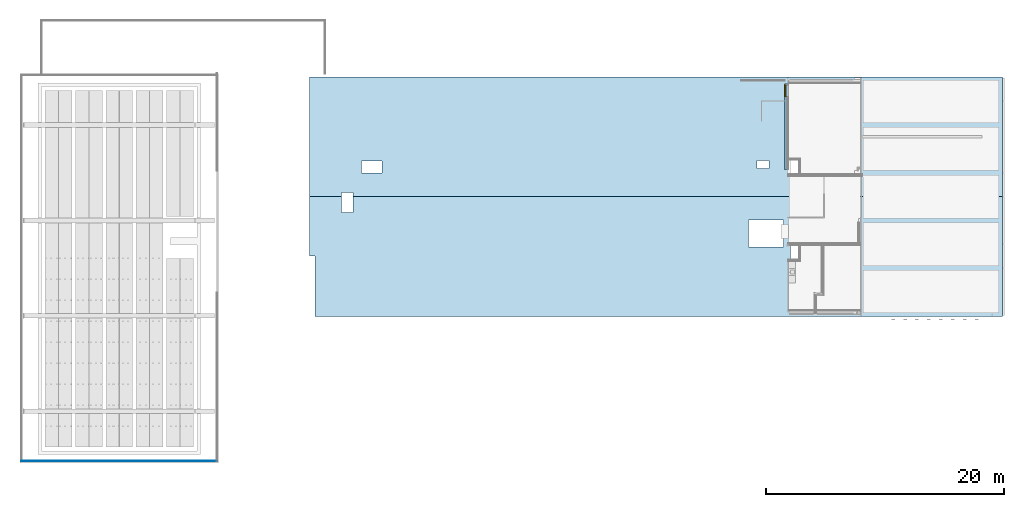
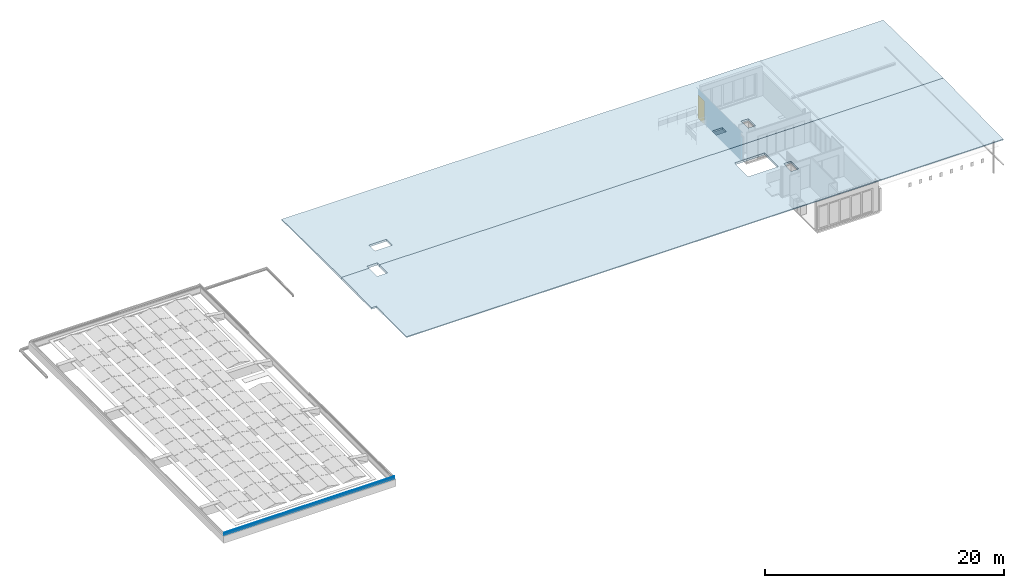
# One storey, part 8 of 25: 3 building element parts, 2 roofs, 1 door, 1 opening, 1 element without a shape of its own, plus 1 element that does not belong to this part.
"""IFC2X3 building model written with IfcOpenShell, lengths in millimetres."""

from ifc_helpers import new_model, entity, si_unit, converted_unit, derived_unit, money_unit, direction, frame, origin_with_axes, place, context, subcontext, project, spatial, faceted_brep, material, type_object, element, fill, aggregate, save


model = new_model("IFC2X3")

# Units and contexts
model_context = context("Model", 3, precision=0.01, world=origin_with_axes(), true_north=direction((0.0, 1.0)))
body_context = subcontext(model_context, "Body", "Model", "MODEL_VIEW")
ifc_project = project(units=[si_unit("LENGTHUNIT", "METRE", prefix="MILLI"), si_unit("AREAUNIT", "SQUARE_METRE"), si_unit("VOLUMEUNIT", "CUBIC_METRE"), converted_unit("PLANEANGLEUNIT", "DEGREE", entity("IfcPlaneAngleMeasure", 0.0174532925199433), si_unit("PLANEANGLEUNIT", "RADIAN"), dimensions=[0, 0, 0, 0, 0, 0, 0]), money_unit("EUR"), converted_unit("TIMEUNIT", "Year", entity("IfcTimeMeasure", 31557600.0), si_unit("TIMEUNIT", "SECOND"), dimensions=[0, 0, 1, 0, 0, 0, 0]), si_unit("MASSUNIT", "GRAM", prefix="KILO"), si_unit("THERMODYNAMICTEMPERATUREUNIT", "DEGREE_CELSIUS"), si_unit("LUMINOUSINTENSITYUNIT", "LUMEN"), si_unit("ENERGYUNIT", "JOULE", prefix="MEGA"), derived_unit("THERMALCONDUCTANCEUNIT", [(si_unit("POWERUNIT", "WATT"), 1), (si_unit("LENGTHUNIT", "METRE"), -1), (si_unit("THERMODYNAMICTEMPERATUREUNIT", "KELVIN"), -1)]), derived_unit("SPECIFICHEATCAPACITYUNIT", [(si_unit("ENERGYUNIT", "JOULE"), 1), (si_unit("MASSUNIT", "GRAM", prefix="KILO"), -1), (si_unit("THERMODYNAMICTEMPERATUREUNIT", "KELVIN"), -1)]), derived_unit("MASSDENSITYUNIT", [(si_unit("MASSUNIT", "GRAM", prefix="KILO"), 1), (si_unit("VOLUMEUNIT", "CUBIC_METRE"), -1)])], contexts=[model_context])

# Site, building, storey
site_placement = place(None, origin_with_axes())
site = spatial("IfcSite", under=ifc_project, at=site_placement, Name="<site naam>", CompositionType="ELEMENT")
building_placement = place(site_placement, origin_with_axes())
building = spatial("IfcBuilding", under=site, at=building_placement, Name="<Naam gebouw>", CompositionType="ELEMENT")
storey_placement = place(building_placement, frame((0.0, 0.0, 9563.0), z_axis=(0.0, 0.0, 1.0), x_axis=(1.0, 0.0, 0.0)))
storey = spatial("IfcBuildingStorey", under=building, at=storey_placement, Name="03 3e tussenverdieping", CompositionType="ELEMENT", Elevation=9563.0)

# Wall, opening, door
ifc_material_1 = material(Name="beton_gewapend C")
wall_type = type_object("IfcWallType", Name="beton 160 160", PredefinedType="NOTDEFINED")
wall_placement = place(storey_placement, frame((51985.00000000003, 19685.91067811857, 0.0), z_axis=(0.0, 0.0, 1.0), x_axis=(0.0, -1.0, 0.0)))
wall = element("IfcWall", 1, at=wall_placement, inside=storey, type_object=wall_type, material=ifc_material_1, Name="22_Binnenwand_beton", context=body_context, shape_type="Brep", body=[
    faceted_brep([(274.9999999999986, 0.0, 2327.0), (274.9999999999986, -129.9999999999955, 2327.0), (7410.910678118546, -129.9999999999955, 2327.0), (7410.910678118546, 0.0, 2327.0), (274.9999999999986, -159.9999999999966, 2927.0), (274.9999999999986, -129.9999999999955, 2927.0), (274.9999999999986, 0.0, 0.0), (274.9999999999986, -159.9999999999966, 0.0), (7685.910678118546, -129.9999999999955, 2987.000014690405), (7685.910678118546, -129.9999999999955, 2927.0), (7410.910678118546, -129.9999999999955, 2927.0), (0.0, -129.9999999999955, 2927.0), (0.0, -129.9999999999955, 2987.000014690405), (7410.910678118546, -159.9999999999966, 2927.0), (7410.910678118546, -159.9999999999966, 0.0), (7410.910678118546, 0.0, 0.0), (0.0, -159.9999999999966, 2927.0), (7685.910678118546, -159.9999999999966, 2927.0), (7685.910678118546, -160.0000000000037, 2987.000014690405), (0.0, -159.9999999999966, 2987.000014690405)], [[[0, 1, 2, 3]], [[4, 5, 1, 0, 6, 7]], [[8, 9, 10, 2, 1, 5, 11, 12]], [[13, 14, 15, 3, 2, 10]], [[6, 0, 3, 15]], [[5, 4, 16, 11]], [[7, 6, 15, 14]], [[7, 14, 13, 17, 18, 19, 16, 4]], [[8, 18, 17, 9]], [[17, 13, 10, 9]], [[19, 12, 11, 16]], [[12, 19, 18, 8]]]),
])
opening_placement = place(wall_placement, frame((817.8526862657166, 0.0, 0.0), z_axis=(0.0, 0.0, 1.0), x_axis=(1.0, 0.0, 0.0)))
opening = element("IfcOpeningElement", 2, at=opening_placement, cuts=wall, Name="22_BI-A-06 sp_305", context=body_context, shape_type="Brep", body=[
    faceted_brep([(516.9999999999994, 0.9999999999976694, 2366.999999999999), (516.9999999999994, 0.9999999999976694, 0.0), (-516.9999999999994, 0.9999999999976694, 0.0), (-516.9999999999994, 0.9999999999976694, 2366.999999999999), (516.9999999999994, -160.9999999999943, 2366.999999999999), (516.9999999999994, -160.9999999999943, 0.0), (-516.9999999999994, -160.9999999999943, 0.0), (-516.9999999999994, -160.9999999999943, 2366.999999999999)], [[[0, 1, 2, 3]], [[4, 5, 1, 0]], [[5, 6, 2, 1]], [[6, 7, 3, 2]], [[7, 4, 0, 3]], [[6, 5, 4, 7]]]),
])
door_style = type_object("IfcDoorStyle", Name="D1 27", ConstructionType="NOTDEFINED", OperationType="SINGLE_SWING_RIGHT", ParameterTakesPrecedence=False, Sizeable=False)
door_placement = place(opening_placement, frame((449.9999999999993, 0.0, 0.0), z_axis=(0.0, 0.0, 1.0), x_axis=(-1.0, 0.0, 0.0)))
door = element("IfcDoor", 3, at=door_placement, inside=storey, type_object=door_style, Name="22_BI-A-06 sp_305", ObjectType="DOOR", OverallHeight=2367.0, OverallWidth=1034.0, context=body_context, shape_type="Brep", body=[
    faceted_brep([(916.9999999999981, 129.9999999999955, 0.0), (916.9999999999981, 129.9999999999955, 12.00000000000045), (899.9999999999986, 129.9999999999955, 12.00000000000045), (899.9999999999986, 129.9999999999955, 0.0), (-16.99999999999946, 129.9999999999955, 0.0), (-16.99999999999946, 129.9999999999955, 12.00000000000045), (0.0, 129.9999999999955, 12.00000000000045), (0.0, 55.99999999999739, 12.00000000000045), (899.9999999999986, 55.99999999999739, 12.00000000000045), (899.9999999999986, 55.99999999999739, 0.0), (0.0, 55.99999999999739, 0.0), (0.0, 129.9999999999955, 0.0)], [[[0, 1, 2, 3]], [[4, 5, 1, 0]], [[1, 5, 6, 7, 8, 2]], [[3, 2, 8, 9]], [[0, 3, 9, 10, 11, 4]], [[11, 6, 5, 4]], [[10, 7, 6, 11]], [[9, 8, 7, 10]]]),
    faceted_brep([(0.0, 129.9999999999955, 0.0), (0.0, 129.9999999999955, 2299.999999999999), (0.0, 55.99999999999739, 2299.999999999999), (0.0, 55.99999999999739, 0.0), (-16.99999999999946, 129.9999999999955, 2299.999999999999), (-16.99999999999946, 129.9999999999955, 0.0), (-16.99999999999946, 169.9999999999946, 2299.999999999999), (-67.00000000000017, 169.9999999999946, 2299.999999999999), (-67.00000000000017, 55.99999999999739, 2299.999999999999), (-67.00000000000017, 55.99999999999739, 0.0), (-67.00000000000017, 169.9999999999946, 0.0), (-16.99999999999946, 169.9999999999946, 0.0)], [[[0, 1, 2, 3]], [[4, 1, 0, 5]], [[4, 6, 7, 8, 2, 1]], [[3, 2, 8, 9]], [[5, 0, 3, 9, 10, 11]], [[6, 4, 5, 11]], [[6, 11, 10, 7]], [[10, 9, 8, 7]]]),
    faceted_brep([(916.9999999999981, 129.9999999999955, 2299.999999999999), (899.9999999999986, 129.9999999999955, 2299.999999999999), (899.9999999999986, 55.99999999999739, 2299.999999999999), (966.9999999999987, 55.99999999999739, 2299.999999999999), (966.9999999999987, 169.9999999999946, 2299.999999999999), (916.9999999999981, 169.9999999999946, 2299.999999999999), (916.9999999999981, 129.9999999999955, 0.0), (899.9999999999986, 129.9999999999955, 0.0), (899.9999999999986, 55.99999999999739, 0.0), (966.9999999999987, 55.99999999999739, 0.0), (966.9999999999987, 169.9999999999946, 0.0), (916.9999999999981, 169.9999999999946, 0.0)], [[[0, 1, 2, 3, 4, 5]], [[1, 0, 6, 7]], [[1, 7, 8, 2]], [[3, 2, 8, 9]], [[4, 3, 9, 10]], [[11, 5, 4, 10]], [[0, 5, 11, 6]], [[6, 11, 10, 9, 8, 7]]]),
    faceted_brep([(-16.99999999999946, 169.9999999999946, 2317.0), (-16.99999999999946, 169.9999999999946, 2299.999999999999), (-67.00000000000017, 169.9999999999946, 2299.999999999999), (-67.00000000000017, 169.9999999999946, 2366.999999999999), (966.9999999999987, 169.9999999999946, 2366.999999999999), (966.9999999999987, 169.9999999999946, 2299.999999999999), (916.9999999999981, 169.9999999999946, 2299.999999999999), (916.9999999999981, 169.9999999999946, 2317.0), (-16.99999999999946, 129.9999999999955, 2317.0), (-16.99999999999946, 129.9999999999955, 2299.999999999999), (0.0, 129.9999999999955, 2299.999999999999), (0.0, 55.99999999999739, 2299.999999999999), (-67.00000000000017, 55.99999999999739, 2299.999999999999), (-67.00000000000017, 55.99999999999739, 2366.999999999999), (966.9999999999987, 55.99999999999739, 2366.999999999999), (966.9999999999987, 55.99999999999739, 2299.999999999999), (916.9999999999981, 129.9999999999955, 2299.999999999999), (899.9999999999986, 55.99999999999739, 2299.999999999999), (899.9999999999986, 129.9999999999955, 2299.999999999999), (916.9999999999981, 129.9999999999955, 2317.0)], [[[0, 1, 2, 3, 4, 5, 6, 7]], [[1, 0, 8, 9]], [[9, 10, 11, 12, 2, 1]], [[2, 12, 13, 3]], [[3, 13, 14, 4]], [[4, 14, 15, 5]], [[16, 6, 5, 15, 17, 18]], [[7, 6, 16, 19]], [[0, 7, 19, 8]], [[16, 18, 10, 9, 8, 19]], [[10, 18, 17, 11]], [[17, 15, 14, 13, 12, 11]]]),
    faceted_brep([(916.9999999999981, 169.9999999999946, 0.0), (916.9999999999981, 129.9999999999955, 0.0), (-16.99999999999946, 129.9999999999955, 0.0), (-16.99999999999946, 169.9999999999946, 0.0), (916.9999999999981, 169.9999999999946, 2317.0), (916.9999999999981, 129.9999999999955, 2317.0), (-16.99999999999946, 129.9999999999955, 2317.0), (-16.99999999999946, 169.9999999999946, 2317.0)], [[[0, 1, 2, 3]], [[4, 5, 1, 0]], [[1, 5, 6, 2]], [[3, 2, 6, 7]], [[0, 3, 7, 4]], [[7, 6, 5, 4]]]),
])
fill(opening, door)

# Roofs
ifc_material_2 = material(Name="ALG - ISOLATIE")
roof_1_placement = place(storey_placement, frame((70009.9999975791, 9996.000511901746, 3136.930201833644), z_axis=(0.0, 0.0, 1.0), x_axis=(-1.0, 0.0, 0.0)))
element("IfcRoof", 4, at=roof_1_placement, inside=storey, material=ifc_material_2, Name="27_Dak_ALG", ShapeType="NOTDEFINED", context=body_context, shape_type="Brep", body=[
    faceted_brep([(21223.99999751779, 1941.000513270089, 0.06981285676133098), (18295.99999724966, 1941.000513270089, 0.06981285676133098), (18295.99999757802, 1941.0005133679, 219.5389247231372), (21223.99999757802, 1941.0005133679, 219.5389247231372), (54384.99999037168, -3.893756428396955e-07, 0.06981285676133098), (-70.00000038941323, -3.893756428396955e-07, 0.06981285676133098), (-70.00000014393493, 10031.00051201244, 0.06981285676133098), (57579.99999522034, 10031.00051201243, 0.06981285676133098), (57579.99999527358, 4991.898205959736, 0.06981285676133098), (58044.99999784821, 4991.898205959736, 0.06981285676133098), (58044.99999797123, -3.893756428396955e-07, 0.06981285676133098), (55384.99999782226, -3.893756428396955e-07, 0.06981285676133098), (55384.99999780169, 1346.276423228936, 0.06981285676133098), (54384.99999035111, 1346.276423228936, 0.06981285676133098), (18295.99999730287, 4205.000513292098, 0.06981285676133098), (21223.99999752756, 4205.000513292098, 0.06981285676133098), (16984.99999176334, 5316.000543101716, 0.06981285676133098), (16984.99999178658, 4061.000512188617, 0.06981285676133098), (17684.99996792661, 4061.000512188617, 0.06981285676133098), (17684.99996795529, 5316.000543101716, 0.06981285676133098), (18295.99999757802, 4205.000513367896, 183.9731706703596), (-70.00000000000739, 10031.00051190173, 92.45104917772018), (-70.00000000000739, 0.0, 250.0305973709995), (54384.99999012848, 0.0, 250.0305973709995), (54384.99999012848, 1346.276423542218, 228.8815972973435), (55384.99999757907, 1346.276423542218, 228.8815972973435), (55384.99999757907, 0.0, 250.0305973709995), (58044.99999757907, 0.0, 250.0305973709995), (58044.99999757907, 4991.898205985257, 171.6115939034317), (57579.99999515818, 4991.898205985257, 171.6115939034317), (57579.99999515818, 10031.00051190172, 92.45104917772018), (17684.99996819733, 4061.000511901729, 186.2353034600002), (16984.99999156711, 4061.000511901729, 186.2353034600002), (16984.99999156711, 5316.000543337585, 166.5201875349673), (17684.99996819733, 5316.000543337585, 166.5201875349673), (21223.99999757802, 4205.000513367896, 183.9731706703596)], [[[0, 1, 2, 3]], [[4, 5, 6, 7, 8, 9, 10, 11, 12, 13], [14, 1, 0, 15], [16, 17, 18, 19]], [[1, 14, 20, 2]], [[21, 22, 23, 24, 25, 26, 27, 28, 29, 30], [31, 32, 33, 34], [2, 20, 35, 3]], [[15, 0, 3, 35]], [[5, 4, 23, 22]], [[6, 5, 22, 21]], [[7, 6, 21, 30]], [[8, 7, 30, 29]], [[9, 8, 29, 28]], [[10, 9, 28, 27]], [[11, 10, 27, 26]], [[12, 11, 26, 25]], [[13, 12, 25, 24]], [[4, 13, 24, 23]], [[14, 15, 35, 20]], [[17, 16, 33, 32]], [[18, 17, 32, 31]], [[19, 18, 31, 34]], [[16, 19, 34, 33]]]),
])
roof_2_placement = place(storey_placement, frame((12035.00000000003, 9996.000511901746, 3136.930201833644), z_axis=(0.0, 0.0, 1.0), x_axis=(1.0, 0.0, 0.0)))
element("IfcRoof", 5, at=roof_2_placement, inside=storey, material=ifc_material_2, Name="27_Dak_ALG", ShapeType="NOTDEFINED", context=body_context, shape_type="Brep", body=[
    faceted_brep([(4289.999999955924, 2979.558344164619, 0.06981285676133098), (5990.000000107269, 2979.558344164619, 0.06981285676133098), (5990.000000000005, 2979.558344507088, 203.2239545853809), (4290.000000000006, 2979.558344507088, 203.2239545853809), (-70.00000014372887, 10038.99948820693, 0.06981285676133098), (58044.99999772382, 10038.99948820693, 0.06981285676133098), (58044.99999797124, -3.893756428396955e-07, 0.06981285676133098), (3589.999999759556, -3.893756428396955e-07, 0.06981285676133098), (3589.999999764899, 353.723576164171, 0.06981285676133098), (2589.999999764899, 353.723576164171, 0.06981285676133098), (2589.999999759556, -3.893756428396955e-07, 0.06981285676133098), (-70.00000038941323, -3.893756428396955e-07, 0.06981285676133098), (40990.00000011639, 1878.999487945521, 0.06981285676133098), (40990.00000010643, 3078.999487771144, 0.06981285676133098), (40289.99999995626, 3078.999487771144, 0.06981285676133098), (40289.99999995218, 1878.999487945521, 0.06981285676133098), (38465.00007888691, 2348.091170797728, 0.06981285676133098), (38465.0000788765, 3048.091171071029, 0.06981285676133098), (37465.0000788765, 3048.091171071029, 0.06981285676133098), (37465.00007888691, 2348.091170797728, 0.06981285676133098), (5990.000000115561, 1979.558344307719, 0.06981285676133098), (4289.999999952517, 1979.558344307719, 0.06981285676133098), (5990.000000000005, 1979.55834450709, 218.9332099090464), (58044.99999757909, 0.0, 250.0305973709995), (58044.99999757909, 10038.99948809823, 92.3253912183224), (-70.00000000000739, 10038.99948809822, 92.3253912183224), (-70.00000000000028, 0.0, 250.0305973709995), (2590.0, 0.0, 250.0305973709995), (2590.0, 353.723576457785, 244.4738633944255), (3590.0, 353.723576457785, 244.4738633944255), (3590.0, 0.0, 250.0305973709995), (4290.000000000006, 1979.55834450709, 218.9332099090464), (37465.00007868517, 2348.091170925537, 213.1438336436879), (37465.00007868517, 3048.09117092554, 202.1473549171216), (38465.00007868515, 3048.09117092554, 202.1473549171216), (38465.00007868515, 2348.091170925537, 213.1438336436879), (40989.99999999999, 3078.999488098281, 201.6618082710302), (40989.99999999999, 1878.999488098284, 220.5129146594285), (40289.99999999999, 1878.999488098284, 220.5129146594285), (40289.99999999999, 3078.999488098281, 201.6618082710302)], [[[0, 1, 2, 3]], [[4, 5, 6, 7, 8, 9, 10, 11], [12, 13, 14, 15], [16, 17, 18, 19], [20, 1, 0, 21]], [[1, 20, 22, 2]], [[23, 24, 25, 26, 27, 28, 29, 30], [2, 22, 31, 3], [32, 33, 34, 35], [36, 37, 38, 39]], [[21, 0, 3, 31]], [[5, 4, 25, 24]], [[6, 5, 24, 23]], [[7, 6, 23, 30]], [[8, 7, 30, 29]], [[9, 8, 29, 28]], [[10, 9, 28, 27]], [[11, 10, 27, 26]], [[4, 11, 26, 25]], [[13, 12, 37, 36]], [[14, 13, 36, 39]], [[15, 14, 39, 38]], [[12, 15, 38, 37]], [[17, 16, 35, 34]], [[18, 17, 34, 33]], [[19, 18, 33, 32]], [[16, 19, 32, 35]], [[20, 21, 31, 22]]]),
])

# Beam, building element parts
beam_type = type_object("IfcBeamType", Name="Aluminium daktrim 45 x 250", PredefinedType="BEAM")
beam_placement = place(storey_placement, frame((-12324.99999757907, -12327.02502410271, -1057.000005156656), z_axis=(0.0, 0.0, 1.0), x_axis=(0.0, -1.0, 0.0)))
beam = element("IfcBeam", 6, at=beam_placement, inside=storey, type_object=beam_type, Name="47_Balk_Aluminium", ObjectType="BEAM")
ifc_material_3 = material(Name="aluminium")
building_element_part_1_placement = place(beam_placement, origin_with_axes())
building_element_part_1 = element("IfcBuildingElementPart", 7, at=building_element_part_1_placement, material=ifc_material_3, Name="aluminium", context=body_context, shape_type="Brep", body=[
    faceted_brep([(-121.4991945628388, 16538.54526887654, 294.0656451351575), (-122.2068758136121, 16537.83758762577, 293.7721760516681), (-122.2068758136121, 122.2068758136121, 293.7721760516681), (-121.4991945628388, 121.4991945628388, 294.0656451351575), (-110.9991946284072, 16549.04526881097, 294.0656451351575), (-110.2920878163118, 16549.75237562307, 293.7727519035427), (-109.9991945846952, 16550.04526885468, 293.0656450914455), (-109.9991945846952, 16550.04526885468, 250.0656451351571), (-110.2920878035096, 16549.75237563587, 249.3585383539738), (-110.9991945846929, 16549.04526885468, 249.0656451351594), (-111.4991731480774, 16548.5452902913, 249.1996073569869), (-117.6977781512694, 16542.34668528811, 252.7781690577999), (-117.9774779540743, 16542.06698548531, 253.1426342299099), (-117.9175736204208, 16542.12688981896, 253.598132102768), (-117.5531500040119, 16542.49131343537, 253.8778860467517), (-117.0976432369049, 16542.94682020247, 253.8180493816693), (-113.8976320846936, 16546.14683135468, 251.9718951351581), (-113.8976320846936, 16546.14683135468, 252.565645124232), (-113.7511854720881, 16546.29327796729, 252.9191985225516), (-113.3976320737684, 16546.64683136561, 253.0656451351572), (-113.1984133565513, 16546.84605008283, 253.0656451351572), (-112.8448599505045, 16547.19960348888, 252.9191985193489), (-112.6984133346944, 16547.34605010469, 252.5656451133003), (-112.6984133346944, 16547.34605010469, 251.278535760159), (-111.9489165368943, 16548.09554690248, 250.8452329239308), (-111.6116899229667, 16548.43277351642, 250.7856033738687), (-111.3150643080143, 16548.72939913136, 250.9567486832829), (-111.1979101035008, 16548.84655333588, 251.278544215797), (-111.1984133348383, 16548.84605010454, 281.0656535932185), (-111.3448629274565, 16548.69960051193, 281.419201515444), (-111.6984133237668, 16548.34605011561, 281.5656451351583), (-112.1984133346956, 16547.84605010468, 281.5656451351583), (-112.5519667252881, 16547.49249671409, 281.4191985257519), (-112.6984133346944, 16547.34605010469, 281.0656451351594), (-112.6984133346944, 16547.34605010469, 279.5656451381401), (-112.8448599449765, 16547.1996034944, 279.212091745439), (-113.1984133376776, 16546.8460501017, 279.065645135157), (-114.9718508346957, 16545.07261260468, 279.065645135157), (-120.1773366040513, 16539.86712683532, 275.7461395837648), (-120.3116945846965, 16539.73276885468, 275.4250201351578), (-120.5695070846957, 16539.47495635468, 275.3156451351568), (-120.889819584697, 16539.15464385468, 275.448457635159), (-121.5401955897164, 16538.50426784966, 275.2060759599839), (-121.694507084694, 16538.34995635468, 274.897676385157), (-121.9640383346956, 16538.08042510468, 274.8078326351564), (-122.2726320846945, 16537.77183135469, 274.9640826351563), (-128.1981216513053, 16531.84634178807, 274.066030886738), (-154.6486035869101, 16505.39585985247, 274.0656451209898), (-154.8951277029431, 16505.14933573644, 274.1677553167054), (-154.9972414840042, 16505.04722195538, 274.4142779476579), (-154.8947842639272, 16505.14967917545, 274.6611444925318), (-154.6476320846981, 16505.39683135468, 274.7629107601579), (-149.9991945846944, 16510.04526885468, 275.2648638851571), (-149.698413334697, 16510.34605010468, 275.565645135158), (-147.2999758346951, 16512.74448760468, 275.565645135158), (-146.9991945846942, 16513.04526885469, 275.2648638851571), (-143.9991945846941, 16516.04526885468, 275.2648638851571), (-143.6984133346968, 16516.34605010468, 275.565645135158), (-141.2999758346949, 16518.74448760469, 275.565645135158), (-140.9991945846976, 16519.04526885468, 275.2648638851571), (-137.9991945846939, 16522.04526885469, 275.2648638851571), (-137.6984133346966, 16522.34605010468, 275.565645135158), (-135.2999758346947, 16524.74448760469, 275.565645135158), (-134.9991945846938, 16525.04526885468, 275.2648638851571), (-131.9991945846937, 16528.04526885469, 275.2648638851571), (-131.6984133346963, 16528.34605010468, 275.565645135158), (-129.2999758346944, 16530.74448760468, 275.565645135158), (-128.9991945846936, 16531.04526885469, 275.2648638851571), (-128.1984107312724, 16531.84605270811, 275.2648638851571), (-120.0158638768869, 16540.02859956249, 277.1388822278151), (-113.4645529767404, 16546.57991046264, 282.3873432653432), (-112.6841977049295, 16547.36026573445, 282.7641787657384), (-112.19700300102, 16547.84746043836, 282.7648658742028), (-111.4908083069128, 16548.55365513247, 283.0582564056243), (-111.1984133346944, 16548.84605010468, 283.7648638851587), (-111.1984133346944, 16548.84605010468, 292.3664263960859), (-111.3448599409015, 16548.69960349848, 292.719979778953), (-111.6984133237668, 16548.34605011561, 292.8664263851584), (-120.7999758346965, 16539.24448760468, 292.8664263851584), (-121.153529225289, 16538.89093421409, 292.7199797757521), (-121.2999758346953, 16538.74448760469, 292.3664263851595), (-121.2999758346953, 16538.74448760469, 290.6652544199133), (-121.4748532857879, 16538.56961015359, 290.2428198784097), (-121.897145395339, 16538.14731804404, 290.0675987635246), (-122.3197220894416, 16537.72474134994, 290.2421324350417), (-122.4952867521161, 16537.54917668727, 290.6642818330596), (-122.4991919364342, 16537.54527150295, 293.0640177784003), (-122.4991919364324, 122.4991919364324, 293.0640177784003), (-122.4952867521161, 122.4952867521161, 290.6642818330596), (-122.3197220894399, 122.3197220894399, 290.2421324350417), (-121.8971453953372, 121.8971453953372, 290.0675987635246), (-121.4748532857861, 121.4748532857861, 290.2428198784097), (-121.2999758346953, 121.2999758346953, 290.6652544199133), (-121.2999758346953, 121.2999758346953, 292.3664263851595), (-121.153529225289, 121.153529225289, 292.7199797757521), (-120.7999758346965, 120.7999758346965, 292.8664263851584), (-111.6984133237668, 111.6984133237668, 292.8664263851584), (-111.3448599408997, 111.3448599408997, 292.719979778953), (-111.1984133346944, 111.1984133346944, 292.3664263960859), (-111.1984133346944, 111.1984133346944, 283.7648638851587), (-111.490808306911, 111.490808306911, 283.0582564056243), (-112.1970030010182, 112.1970030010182, 282.7648658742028), (-112.6841977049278, 112.6841977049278, 282.7641787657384), (-113.4645529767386, 113.4645529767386, 282.3873432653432), (-120.0158638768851, 120.0158638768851, 277.1388822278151), (-128.1984107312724, 128.1984107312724, 275.2648638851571), (-128.9991945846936, 128.9991945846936, 275.2648638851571), (-129.2999758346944, 129.2999758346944, 275.565645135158), (-131.6984133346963, 131.6984133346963, 275.565645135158), (-131.9991945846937, 131.9991945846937, 275.2648638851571), (-134.9991945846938, 134.9991945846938, 275.2648638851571), (-135.2999758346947, 135.2999758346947, 275.565645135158), (-137.6984133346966, 137.6984133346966, 275.565645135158), (-137.9991945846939, 137.9991945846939, 275.2648638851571), (-140.9991945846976, 140.9991945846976, 275.2648638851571), (-141.2999758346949, 141.2999758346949, 275.565645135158), (-143.6984133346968, 143.6984133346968, 275.565645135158), (-143.9991945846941, 143.9991945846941, 275.2648638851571), (-146.9991945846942, 146.9991945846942, 275.2648638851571), (-147.2999758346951, 147.2999758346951, 275.565645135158), (-149.698413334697, 149.698413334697, 275.565645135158), (-149.9991945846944, 149.9991945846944, 275.2648638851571), (-154.6476320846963, 154.6476320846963, 274.7629107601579), (-154.8947842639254, 154.8947842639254, 274.6611444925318), (-154.9972414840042, 154.9972414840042, 274.4142779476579), (-154.8951277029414, 154.8951277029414, 274.1677553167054), (-154.6486035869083, 154.6486035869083, 274.0656451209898), (-128.1981216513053, 128.1981216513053, 274.066030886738), (-122.2726320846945, 122.2726320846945, 274.9640826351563), (-121.9640383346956, 121.9640383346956, 274.8078326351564), (-121.694507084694, 121.694507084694, 274.897676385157), (-121.5401955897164, 121.5401955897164, 275.2060759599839), (-120.889819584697, 120.889819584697, 275.448457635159), (-120.5695070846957, 120.5695070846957, 275.3156451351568), (-120.3116945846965, 120.3116945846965, 275.4250201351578), (-120.1773366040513, 120.1773366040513, 275.7461395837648), (-114.9718508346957, 114.9718508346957, 279.065645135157), (-113.1984133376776, 113.1984133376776, 279.065645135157), (-112.8448599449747, 112.8448599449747, 279.212091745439), (-112.6984133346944, 112.6984133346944, 279.5656451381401), (-112.6984133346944, 112.6984133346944, 281.0656451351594), (-112.5519667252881, 112.5519667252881, 281.4191985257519), (-112.1984133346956, 112.1984133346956, 281.5656451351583), (-111.6984133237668, 111.6984133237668, 281.5656451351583), (-111.3448629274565, 111.3448629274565, 281.419201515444), (-111.1984133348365, 111.1984133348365, 281.0656535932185), (-111.1979101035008, 111.1979101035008, 251.278544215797), (-111.3150643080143, 111.3150643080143, 250.9567486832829), (-111.6116899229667, 111.6116899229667, 250.7856033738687), (-111.9489165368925, 111.9489165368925, 250.8452329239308), (-112.6984133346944, 112.6984133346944, 251.278535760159), (-112.6984133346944, 112.6984133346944, 252.5656451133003), (-112.8448599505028, 112.8448599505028, 252.9191985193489), (-113.1984133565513, 113.1984133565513, 253.0656451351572), (-113.3976320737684, 113.3976320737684, 253.0656451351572), (-113.7511854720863, 113.7511854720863, 252.9191985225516), (-113.8976320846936, 113.8976320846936, 252.565645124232), (-113.8976320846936, 113.8976320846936, 251.9718951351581), (-117.0976432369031, 117.0976432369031, 253.8180493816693), (-117.5531500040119, 117.5531500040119, 253.8778860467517), (-117.917573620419, 117.917573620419, 253.598132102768), (-117.9774779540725, 117.9774779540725, 253.1426342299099), (-117.6977781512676, 117.6977781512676, 252.7781690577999), (-111.4991731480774, 111.4991731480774, 249.1996073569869), (-110.9991945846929, 110.9991945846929, 249.0656451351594), (-110.2920878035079, 110.2920878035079, 249.3585383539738), (-109.9991945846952, 109.9991945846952, 250.0656451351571), (-109.9991945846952, 109.9991945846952, 293.0656450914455), (-110.2920878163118, 110.2920878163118, 293.7727519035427), (-110.9991946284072, 110.9991946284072, 294.0656451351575)], [[[0, 1, 2, 3]], [[0, 4, 5, 6, 7, 8, 9, 10, 11, 12, 13, 14, 15, 16, 17, 18, 19, 20, 21, 22, 23, 24, 25, 26, 27, 28, 29, 30, 31, 32, 33, 34, 35, 36, 37, 38, 39, 40, 41, 42, 43, 44, 45, 46, 47, 48, 49, 50, 51, 52, 53, 54, 55, 56, 57, 58, 59, 60, 61, 62, 63, 64, 65, 66, 67, 68, 69, 70, 71, 72, 73, 74, 75, 76, 77, 78, 79, 80, 81, 82, 83, 84, 85, 86, 1]], [[1, 86, 87, 2]], [[3, 2, 87, 88, 89, 90, 91, 92, 93, 94, 95, 96, 97, 98, 99, 100, 101, 102, 103, 104, 105, 106, 107, 108, 109, 110, 111, 112, 113, 114, 115, 116, 117, 118, 119, 120, 121, 122, 123, 124, 125, 126, 127, 128, 129, 130, 131, 132, 133, 134, 135, 136, 137, 138, 139, 140, 141, 142, 143, 144, 145, 146, 147, 148, 149, 150, 151, 152, 153, 154, 155, 156, 157, 158, 159, 160, 161, 162, 163, 164, 165, 166, 167, 168, 169]], [[4, 0, 3, 169]], [[5, 4, 169, 168]], [[6, 5, 168, 167]], [[7, 6, 167, 166]], [[8, 7, 166, 165]], [[9, 8, 165, 164]], [[10, 9, 164, 163]], [[11, 10, 163, 162]], [[12, 11, 162, 161]], [[13, 12, 161, 160]], [[14, 13, 160, 159]], [[15, 14, 159, 158]], [[16, 15, 158, 157]], [[17, 16, 157, 156]], [[18, 17, 156, 155]], [[19, 18, 155, 154]], [[20, 19, 154, 153]], [[21, 20, 153, 152]], [[22, 21, 152, 151]], [[23, 22, 151, 150]], [[24, 23, 150, 149]], [[25, 24, 149, 148]], [[26, 25, 148, 147]], [[27, 26, 147, 146]], [[28, 27, 146, 145]], [[29, 28, 145, 144]], [[30, 29, 144, 143]], [[31, 30, 143, 142]], [[32, 31, 142, 141]], [[33, 32, 141, 140]], [[34, 33, 140, 139]], [[35, 34, 139, 138]], [[36, 35, 138, 137]], [[37, 36, 137, 136]], [[38, 37, 136, 135]], [[39, 38, 135, 134]], [[40, 39, 134, 133]], [[41, 40, 133, 132]], [[42, 41, 132, 131]], [[43, 42, 131, 130]], [[44, 43, 130, 129]], [[45, 44, 129, 128]], [[46, 45, 128, 127]], [[47, 46, 127, 126]], [[48, 47, 126, 125]], [[49, 48, 125, 124]], [[50, 49, 124, 123]], [[51, 50, 123, 122]], [[52, 51, 122, 121]], [[53, 52, 121, 120]], [[54, 53, 120, 119]], [[55, 54, 119, 118]], [[56, 55, 118, 117]], [[57, 56, 117, 116]], [[58, 57, 116, 115]], [[59, 58, 115, 114]], [[60, 59, 114, 113]], [[61, 60, 113, 112]], [[62, 61, 112, 111]], [[63, 62, 111, 110]], [[64, 63, 110, 109]], [[65, 64, 109, 108]], [[66, 65, 108, 107]], [[67, 66, 107, 106]], [[68, 67, 106, 105]], [[69, 68, 105, 104]], [[70, 69, 104, 103]], [[71, 70, 103, 102]], [[72, 71, 102, 101]], [[73, 72, 101, 100]], [[74, 73, 100, 99]], [[75, 74, 99, 98]], [[76, 75, 98, 97]], [[77, 76, 97, 96]], [[78, 77, 96, 95]], [[79, 78, 95, 94]], [[80, 79, 94, 93]], [[81, 80, 93, 92]], [[82, 81, 92, 91]], [[83, 82, 91, 90]], [[84, 83, 90, 89]], [[85, 84, 89, 88]], [[86, 85, 88, 87]]]),
])
building_element_part_2_placement = place(beam_placement, origin_with_axes())
building_element_part_2 = element("IfcBuildingElementPart", 8, at=building_element_part_2_placement, material=ifc_material_3, Name="aluminium", context=body_context, shape_type="Brep", body=[
    faceted_brep([(-143.0058874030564, 16517.03857603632, 241.8720983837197), (-111.1979101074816, 16548.8465533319, 237.7678423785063), (-111.1979101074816, 111.1979101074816, 237.7678423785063), (-143.0058874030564, 143.0058874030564, 241.8720983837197), (-143.0058874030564, 16517.03857603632, 253.0654661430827), (-141.8058874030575, 16518.23857603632, 253.0654661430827), (-141.8058874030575, 16518.23857603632, 243.1686919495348), (-110.0058874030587, 16550.03857603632, 239.0654661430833), (-110.0058874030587, 16550.03857603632, 44.56563661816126), (-115.205887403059, 16544.83857603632, 44.56563661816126), (-115.205887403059, 16544.83857603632, 61.56563661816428), (-114.0058874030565, 16546.03857603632, 61.56563661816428), (-114.0058874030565, 16546.03857603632, 45.7656366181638), (-111.1979101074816, 16548.8465533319, 45.7656366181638), (-111.1979101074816, 111.1979101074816, 45.7656366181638), (-114.0058874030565, 114.0058874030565, 45.7656366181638), (-114.0058874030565, 114.0058874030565, 61.56563661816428), (-115.2058874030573, 115.2058874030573, 61.56563661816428), (-115.2058874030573, 115.2058874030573, 44.56563661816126), (-110.0058874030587, 110.0058874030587, 44.56563661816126), (-110.0058874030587, 110.0058874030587, 239.0654661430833), (-141.8058874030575, 141.8058874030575, 243.1686919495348), (-141.8058874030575, 141.8058874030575, 253.0654661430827), (-143.0058874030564, 143.0058874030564, 253.0654661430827)], [[[0, 1, 2, 3]], [[0, 4, 5, 6, 7, 8, 9, 10, 11, 12, 13, 1]], [[1, 13, 14, 2]], [[3, 2, 14, 15, 16, 17, 18, 19, 20, 21, 22, 23]], [[4, 0, 3, 23]], [[5, 4, 23, 22]], [[6, 5, 22, 21]], [[7, 6, 21, 20]], [[8, 7, 20, 19]], [[9, 8, 19, 18]], [[10, 9, 18, 17]], [[11, 10, 17, 16]], [[12, 11, 16, 15]], [[13, 12, 15, 14]]]),
])
building_element_part_3_placement = place(beam_placement, origin_with_axes())
building_element_part_3 = element("IfcBuildingElementPart", 9, at=building_element_part_3_placement, material=ifc_material_3, Name="aluminium", context=body_context, shape_type="Brep", body=[
    faceted_brep([(-112.0058939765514, 16548.03856946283, 49.56563034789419), (-112.0058939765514, 16548.03856946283, 69.56564503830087), (-112.0058939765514, 112.0058939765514, 69.56564503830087), (-112.0058939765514, 112.0058939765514, 49.56563034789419), (-113.2058874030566, 16546.83857603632, 49.56563034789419), (-113.2058874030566, 16546.83857603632, 68.55872432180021), (-145.0058874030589, 16515.03857603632, 74.16592230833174), (-145.0058874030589, 16515.03857603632, 89.56564503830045), (-143.8058874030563, 16516.23857603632, 89.56564503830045), (-143.8058874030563, 16516.23857603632, 75.17284186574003), (-143.8058874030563, 143.8058874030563, 75.17284186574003), (-143.8058874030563, 143.8058874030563, 89.56564503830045), (-145.0058874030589, 145.0058874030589, 89.56564503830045), (-145.0058874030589, 145.0058874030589, 74.16592230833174), (-113.2058874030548, 113.2058874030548, 68.55872432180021), (-113.2058874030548, 113.2058874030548, 49.56563034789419)], [[[0, 1, 2, 3]], [[0, 4, 5, 6, 7, 8, 9, 1]], [[1, 9, 10, 2]], [[3, 2, 10, 11, 12, 13, 14, 15]], [[4, 0, 3, 15]], [[5, 4, 15, 14]], [[6, 5, 14, 13]], [[7, 6, 13, 12]], [[8, 7, 12, 11]], [[9, 8, 11, 10]]]),
])
aggregate(beam, [building_element_part_1, building_element_part_2, building_element_part_3])

save(model, "model.ifc")
